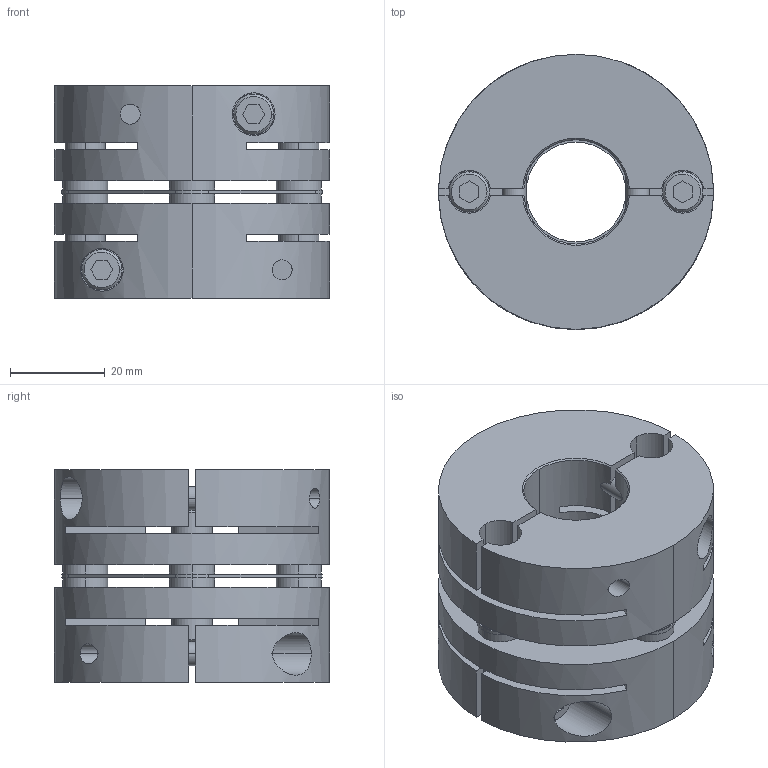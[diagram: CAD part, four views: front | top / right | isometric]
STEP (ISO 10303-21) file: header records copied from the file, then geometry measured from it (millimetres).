
FILE_DESCRIPTION((''),'2;1');
FILE_NAME('LAS-58C-22×22.stp','2015-10-15T14:58:59',(''),(''),'AutoCAD STEP 2000i','AutoCAD 2000i',', , ');
FILE_SCHEMA(('CONFIG_CONTROL_DESIGN'));
Length unit declared in the file: millimetre
Products named in the file (6): LAS-58C-12×19; 忣兜1; LA-5802-D19; LA-5802-D12-1; LA-5802-D12; LAS58-ITA
Assembly tree (5 placements, depth 2):
  LAS-58C-12×19
    忣兜1
    LA-5802-D19
    LA-5802-D12-1
    LA-5802-D12
    LAS58-ITA
Bounding box: 58 x 58 x 44.8 mm (x, y, z)
Volume: 81691.6 mm3; surface area: 32645.7 mm2
Topology: 1 solids, 1 shells, 238 faces, 630 edges, 412 vertices
Faces by surface type: plane 114, cylinder 96, cone 28
Entity records: 8409 total; most frequent: CARTESIAN_POINT 2128, DIRECTION 1320, ORIENTED_EDGE 1264, EDGE_CURVE 632, AXIS2_PLACEMENT_3D 484, VERTEX_POINT 412, VECTOR 352, LINE 352
